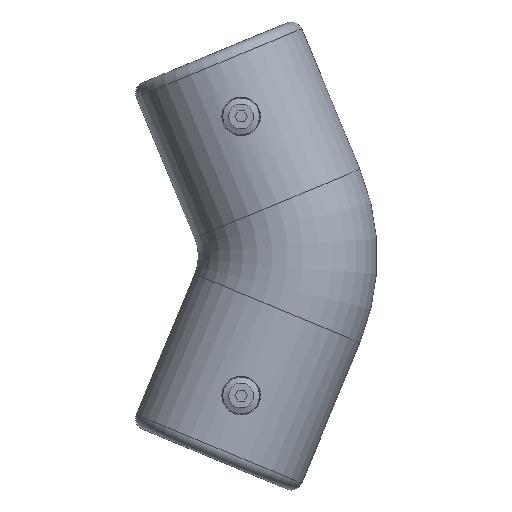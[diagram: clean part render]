
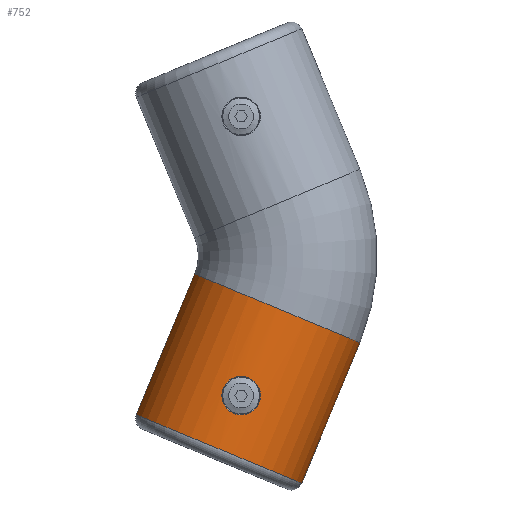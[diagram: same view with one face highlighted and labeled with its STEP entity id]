
A CAD part, front view. The second image highlights one B-rep face of the part: STEP entity #752.
In plain terms, the highlighted cylindrical face has radius 32.5 mm (diameter 65 mm), a partial arc.
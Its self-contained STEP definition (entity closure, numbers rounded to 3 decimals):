
#78=FACE_BOUND('',#272,.T.);
#89=B_SPLINE_CURVE_WITH_KNOTS('',3,(#1231,#1232,#1233,#1234,#1235,#1236,
#1237,#1238,#1239,#1240),.UNSPECIFIED.,.F.,.F.,(4,2,2,2,4),(1.058,
1.323,1.587,1.852,1.852),
 .UNSPECIFIED.);
#90=B_SPLINE_CURVE_WITH_KNOTS('',3,(#1242,#1243,#1244,#1245,#1246,#1247,
#1248,#1249,#1250,#1251,#1252,#1253),.UNSPECIFIED.,.F.,.F.,(4,2,2,2,2,4),
(1.852,2.117,2.381,2.646,2.91,
3.175),.UNSPECIFIED.);
#91=B_SPLINE_CURVE_WITH_KNOTS('',3,(#1254,#1255,#1256,#1257,#1258,#1259,
#1260,#1261,#1262,#1263,#1264,#1265,#1266,#1267,#1268,#1269,#1270,#1271,
#1272),.UNSPECIFIED.,.F.,.F.,(4,2,2,2,3,2,2,2,4),(3.175,3.439,
3.704,3.969,4.233,4.498,4.762,
5.027,5.291),.UNSPECIFIED.);
#99=LINE('',#1225,#156);
#100=LINE('',#1228,#157);
#156=VECTOR('',#987,10.);
#157=VECTOR('',#990,10.);
#213=CYLINDRICAL_SURFACE('',#886,32.5);
#225=FACE_OUTER_BOUND('',#271,.T.);
#271=EDGE_LOOP('',(#543,#544,#545,#546));
#272=EDGE_LOOP('',(#547,#548,#549));
#330=CIRCLE('',#885,32.5);
#331=CIRCLE('',#887,32.5);
#364=VERTEX_POINT('',#1215);
#367=VERTEX_POINT('',#1220);
#368=VERTEX_POINT('',#1224);
#369=VERTEX_POINT('',#1226);
#370=VERTEX_POINT('',#1229);
#371=VERTEX_POINT('',#1230);
#372=VERTEX_POINT('',#1241);
#438=EDGE_CURVE('',#367,#364,#330,.T.);
#439=EDGE_CURVE('',#368,#367,#99,.T.);
#440=EDGE_CURVE('',#368,#369,#331,.T.);
#441=EDGE_CURVE('',#369,#364,#100,.T.);
#442=EDGE_CURVE('',#370,#371,#89,.T.);
#443=EDGE_CURVE('',#371,#372,#90,.T.);
#444=EDGE_CURVE('',#372,#370,#91,.T.);
#543=ORIENTED_EDGE('',*,*,#438,.F.);
#544=ORIENTED_EDGE('',*,*,#439,.F.);
#545=ORIENTED_EDGE('',*,*,#440,.T.);
#546=ORIENTED_EDGE('',*,*,#441,.T.);
#547=ORIENTED_EDGE('',*,*,#442,.T.);
#548=ORIENTED_EDGE('',*,*,#443,.T.);
#549=ORIENTED_EDGE('',*,*,#444,.T.);
#752=ADVANCED_FACE('',(#225,#78),#213,.T.);
#885=AXIS2_PLACEMENT_3D('',#1222,#983,#984);
#886=AXIS2_PLACEMENT_3D('',#1223,#985,#986);
#887=AXIS2_PLACEMENT_3D('',#1227,#988,#989);
#983=DIRECTION('center_axis',(-0.383,0.,0.924));
#984=DIRECTION('ref_axis',(0.,1.,0.));
#985=DIRECTION('center_axis',(-0.383,0.,0.924));
#986=DIRECTION('ref_axis',(-0.924,0.,-0.383));
#987=DIRECTION('',(-0.383,0.,0.924));
#988=DIRECTION('center_axis',(-0.383,0.,0.924));
#989=DIRECTION('ref_axis',(-0.924,0.,-0.383));
#990=DIRECTION('',(-0.383,0.,0.924));
#1215=CARTESIAN_POINT('',(-40.164,0.,57.643));
#1220=CARTESIAN_POINT('',(19.888,0.,82.518));
#1222=CARTESIAN_POINT('Origin',(-10.138,0.,70.08));
#1223=CARTESIAN_POINT('Origin',(11.02,0.,19.));
#1224=CARTESIAN_POINT('',(41.046,0.,31.437));
#1225=CARTESIAN_POINT('',(41.046,0.,31.437));
#1226=CARTESIAN_POINT('',(-19.006,0.,6.563));
#1227=CARTESIAN_POINT('Origin',(11.02,0.,19.));
#1228=CARTESIAN_POINT('',(-19.006,0.,6.563));
#1229=CARTESIAN_POINT('',(-4.781,32.5,57.146));
#1230=CARTESIAN_POINT('',(-9.102,31.85,50.679));
#1231=CARTESIAN_POINT('Ctrl Pts',(-4.781,32.5,57.146));
#1232=CARTESIAN_POINT('Ctrl Pts',(-5.595,32.5,56.809));
#1233=CARTESIAN_POINT('Ctrl Pts',(-6.395,32.46,56.286));
#1234=CARTESIAN_POINT('Ctrl Pts',(-7.714,32.318,54.966));
#1235=CARTESIAN_POINT('Ctrl Pts',(-8.233,32.216,54.168));
#1236=CARTESIAN_POINT('Ctrl Pts',(-8.904,32.025,52.548));
#1237=CARTESIAN_POINT('Ctrl Pts',(-9.101,31.923,51.616));
#1238=CARTESIAN_POINT('Ctrl Pts',(-9.102,31.85,50.682));
#1239=CARTESIAN_POINT('Ctrl Pts',(-9.102,31.85,50.68));
#1240=CARTESIAN_POINT('Ctrl Pts',(-9.102,31.85,50.679));
#1241=CARTESIAN_POINT('',(0.577,32.5,44.212));
#1242=CARTESIAN_POINT('Ctrl Pts',(-9.102,31.85,50.679));
#1243=CARTESIAN_POINT('Ctrl Pts',(-9.102,31.778,49.747));
#1244=CARTESIAN_POINT('Ctrl Pts',(-8.906,31.737,48.814));
#1245=CARTESIAN_POINT('Ctrl Pts',(-8.231,31.737,47.185));
#1246=CARTESIAN_POINT('Ctrl Pts',(-7.709,31.778,46.386));
#1247=CARTESIAN_POINT('Ctrl Pts',(-6.388,31.923,45.067));
#1248=CARTESIAN_POINT('Ctrl Pts',(-5.591,32.025,44.547));
#1249=CARTESIAN_POINT('Ctrl Pts',(-3.971,32.216,43.876));
#1250=CARTESIAN_POINT('Ctrl Pts',(-3.039,32.318,43.68));
#1251=CARTESIAN_POINT('Ctrl Pts',(-1.173,32.46,43.678));
#1252=CARTESIAN_POINT('Ctrl Pts',(-0.238,32.5,43.874));
#1253=CARTESIAN_POINT('Ctrl Pts',(0.577,32.5,44.212));
#1254=CARTESIAN_POINT('Ctrl Pts',(0.577,32.5,44.212));
#1255=CARTESIAN_POINT('Ctrl Pts',(1.392,32.5,44.549));
#1256=CARTESIAN_POINT('Ctrl Pts',(2.191,32.46,45.072));
#1257=CARTESIAN_POINT('Ctrl Pts',(3.51,32.318,46.392));
#1258=CARTESIAN_POINT('Ctrl Pts',(4.03,32.216,47.19));
#1259=CARTESIAN_POINT('Ctrl Pts',(4.701,32.025,48.81));
#1260=CARTESIAN_POINT('Ctrl Pts',(4.898,31.923,49.742));
#1261=CARTESIAN_POINT('Ctrl Pts',(4.899,31.778,51.608));
#1262=CARTESIAN_POINT('Ctrl Pts',(4.703,31.737,52.543));
#1263=CARTESIAN_POINT('Ctrl Pts',(4.365,31.737,53.358));
#1264=CARTESIAN_POINT('Ctrl Pts',(4.028,31.737,54.173));
#1265=CARTESIAN_POINT('Ctrl Pts',(3.505,31.778,54.972));
#1266=CARTESIAN_POINT('Ctrl Pts',(2.185,31.923,56.291));
#1267=CARTESIAN_POINT('Ctrl Pts',(1.387,32.025,56.811));
#1268=CARTESIAN_POINT('Ctrl Pts',(-0.233,32.216,57.482));
#1269=CARTESIAN_POINT('Ctrl Pts',(-1.164,32.318,57.678));
#1270=CARTESIAN_POINT('Ctrl Pts',(-3.031,32.46,57.68));
#1271=CARTESIAN_POINT('Ctrl Pts',(-3.966,32.5,57.484));
#1272=CARTESIAN_POINT('Ctrl Pts',(-4.781,32.5,57.146));
